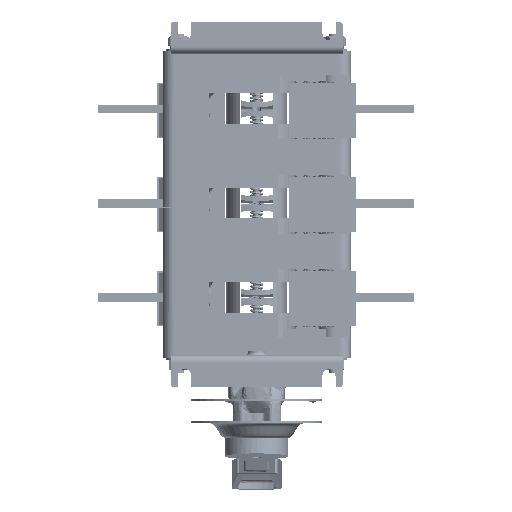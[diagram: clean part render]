
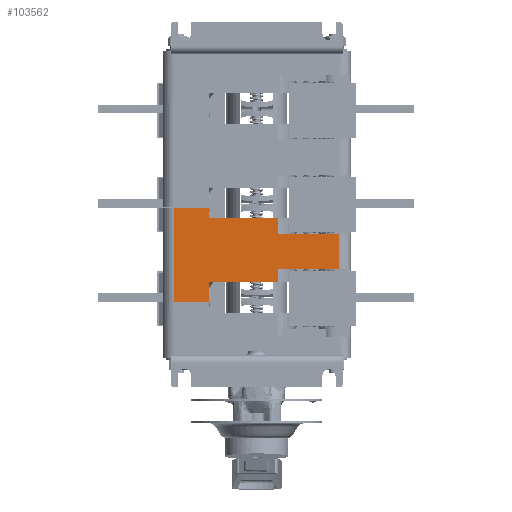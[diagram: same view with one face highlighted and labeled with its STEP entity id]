
A CAD part, front view. The second image highlights one B-rep face of the part: STEP entity #103562.
In plain terms, the highlighted planar face has unit normal (0, -1, 0).
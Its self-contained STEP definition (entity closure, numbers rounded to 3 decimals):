
#2036 = DIRECTION ( 'NONE',  ( -1., 0., 0. ) ) ;
#2700 = VERTEX_POINT ( 'NONE', #9446 ) ;
#2861 = CARTESIAN_POINT ( 'NONE',  ( 57., -27., 14.5 ) ) ;
#3808 = CARTESIAN_POINT ( 'NONE',  ( -57., -27., 32.5 ) ) ;
#7294 = VERTEX_POINT ( 'NONE', #89578 ) ;
#7757 = DIRECTION ( 'NONE',  ( 0., 0., -1. ) ) ;
#7928 = VECTOR ( 'NONE', #106510, 1000. ) ;
#8209 = EDGE_CURVE ( 'NONE', #99063, #37990, #20240, .T. ) ;
#8443 = DIRECTION ( 'NONE',  ( -1., 0., 0. ) ) ;
#9446 = CARTESIAN_POINT ( 'NONE',  ( 57., -27., -10. ) ) ;
#10263 = ORIENTED_EDGE ( 'NONE', *, *, #48912, .T. ) ;
#10593 = LINE ( 'NONE', #67646, #94738 ) ;
#11622 = ORIENTED_EDGE ( 'NONE', *, *, #42886, .F. ) ;
#11790 = LINE ( 'NONE', #94224, #27671 ) ;
#13086 = CARTESIAN_POINT ( 'NONE',  ( -57., -27., 25. ) ) ;
#14388 = EDGE_CURVE ( 'NONE', #93547, #51093, #69107, .T. ) ;
#16885 = VERTEX_POINT ( 'NONE', #35813 ) ;
#17057 = EDGE_CURVE ( 'NONE', #88546, #2700, #57174, .T. ) ;
#18035 = FACE_OUTER_BOUND ( 'NONE', #81884, .T. ) ;
#18108 = ORIENTED_EDGE ( 'NONE', *, *, #90341, .F. ) ;
#20240 = LINE ( 'NONE', #78222, #75536 ) ;
#20956 = EDGE_CURVE ( 'NONE', #32603, #72906, #10593, .T. ) ;
#23085 = LINE ( 'NONE', #63423, #100612 ) ;
#24018 = DIRECTION ( 'NONE',  ( 1., 0., 0. ) ) ;
#25399 = CARTESIAN_POINT ( 'NONE',  ( 15., -27., 14.5 ) ) ;
#26850 = LINE ( 'NONE', #34620, #91208 ) ;
#27108 = LINE ( 'NONE', #25399, #33682 ) ;
#27671 = VECTOR ( 'NONE', #24018, 1000. ) ;
#29635 = ORIENTED_EDGE ( 'NONE', *, *, #67912, .F. ) ;
#30004 = DIRECTION ( 'NONE',  ( 0., 1., 0. ) ) ;
#30266 = LINE ( 'NONE', #80801, #7928 ) ;
#32603 = VERTEX_POINT ( 'NONE', #106537 ) ;
#32645 = ORIENTED_EDGE ( 'NONE', *, *, #96063, .F. ) ;
#33682 = VECTOR ( 'NONE', #108037, 1000. ) ;
#34620 = CARTESIAN_POINT ( 'NONE',  ( -57., -27., -32.5 ) ) ;
#35813 = CARTESIAN_POINT ( 'NONE',  ( 15., -27., -10. ) ) ;
#37990 = VERTEX_POINT ( 'NONE', #106682 ) ;
#38276 = ORIENTED_EDGE ( 'NONE', *, *, #8209, .F. ) ;
#38368 = ORIENTED_EDGE ( 'NONE', *, *, #69264, .F. ) ;
#41203 = CARTESIAN_POINT ( 'NONE',  ( -33., -27., -32.5 ) ) ;
#42317 = DIRECTION ( 'NONE',  ( -1., 0., 0. ) ) ;
#42886 = EDGE_CURVE ( 'NONE', #7294, #99063, #95862, .T. ) ;
#48311 = VERTEX_POINT ( 'NONE', #41203 ) ;
#48912 = EDGE_CURVE ( 'NONE', #69072, #37990, #30266, .T. ) ;
#51093 = VERTEX_POINT ( 'NONE', #95189 ) ;
#51715 = CARTESIAN_POINT ( 'NONE',  ( 15., -27., -19. ) ) ;
#52477 = DIRECTION ( 'NONE',  ( 0., 0., -1. ) ) ;
#53423 = CARTESIAN_POINT ( 'NONE',  ( 57., -27., 25. ) ) ;
#57174 = LINE ( 'NONE', #53423, #96541 ) ;
#57251 = VECTOR ( 'NONE', #52477, 1000. ) ;
#57780 = CARTESIAN_POINT ( 'NONE',  ( -33., -27., 32.5 ) ) ;
#62722 = DIRECTION ( 'NONE',  ( 0., 0., 1. ) ) ;
#63423 = CARTESIAN_POINT ( 'NONE',  ( -33., -27., -32.5 ) ) ;
#64828 = ORIENTED_EDGE ( 'NONE', *, *, #17057, .F. ) ;
#65942 = CARTESIAN_POINT ( 'NONE',  ( -33., -27., 25. ) ) ;
#67646 = CARTESIAN_POINT ( 'NONE',  ( -33., -27., -19. ) ) ;
#67912 = EDGE_CURVE ( 'NONE', #69072, #88546, #27108, .T. ) ;
#69072 = VERTEX_POINT ( 'NONE', #81853 ) ;
#69107 = LINE ( 'NONE', #79967, #57251 ) ;
#69264 = EDGE_CURVE ( 'NONE', #2700, #16885, #96505, .T. ) ;
#69311 = DIRECTION ( 'NONE',  ( 0., 0., 1. ) ) ;
#72906 = VERTEX_POINT ( 'NONE', #103095 ) ;
#74004 = AXIS2_PLACEMENT_3D ( 'NONE', #13086, #30004, #97228 ) ;
#75536 = VECTOR ( 'NONE', #103528, 1000. ) ;
#75625 = VECTOR ( 'NONE', #2036, 1000. ) ;
#77822 = CARTESIAN_POINT ( 'NONE',  ( 15., -27., -10. ) ) ;
#78222 = CARTESIAN_POINT ( 'NONE',  ( -57., -27., 25. ) ) ;
#78751 = ORIENTED_EDGE ( 'NONE', *, *, #14388, .T. ) ;
#79758 = VECTOR ( 'NONE', #69311, 1000. ) ;
#79967 = CARTESIAN_POINT ( 'NONE',  ( -57., -27., 25. ) ) ;
#80357 = PLANE ( 'NONE',  #74004 ) ;
#80801 = CARTESIAN_POINT ( 'NONE',  ( 15., -27., 14.5 ) ) ;
#81853 = CARTESIAN_POINT ( 'NONE',  ( 15., -27., 14.5 ) ) ;
#81884 = EDGE_LOOP ( 'NONE', ( #29635, #10263, #38276, #11622, #18108, #78751, #32645, #96170, #88472, #87652, #38368, #64828 ) ) ;
#86657 = VECTOR ( 'NONE', #7757, 1000. ) ;
#87652 = ORIENTED_EDGE ( 'NONE', *, *, #102403, .T. ) ;
#88472 = ORIENTED_EDGE ( 'NONE', *, *, #20956, .F. ) ;
#88546 = VERTEX_POINT ( 'NONE', #2861 ) ;
#89578 = CARTESIAN_POINT ( 'NONE',  ( -33., -27., 32.5 ) ) ;
#90341 = EDGE_CURVE ( 'NONE', #93547, #7294, #11790, .T. ) ;
#91208 = VECTOR ( 'NONE', #42317, 1000. ) ;
#93547 = VERTEX_POINT ( 'NONE', #3808 ) ;
#94224 = CARTESIAN_POINT ( 'NONE',  ( -57., -27., 32.5 ) ) ;
#94738 = VECTOR ( 'NONE', #8443, 1000. ) ;
#95189 = CARTESIAN_POINT ( 'NONE',  ( -57., -27., -32.5 ) ) ;
#95251 = DIRECTION ( 'NONE',  ( 0., 0., -1. ) ) ;
#95862 = LINE ( 'NONE', #57780, #86657 ) ;
#96063 = EDGE_CURVE ( 'NONE', #48311, #51093, #26850, .T. ) ;
#96170 = ORIENTED_EDGE ( 'NONE', *, *, #98467, .T. ) ;
#96505 = LINE ( 'NONE', #77822, #75625 ) ;
#96541 = VECTOR ( 'NONE', #95251, 1000. ) ;
#97228 = DIRECTION ( 'NONE',  ( 0., 0., 1. ) ) ;
#98467 = EDGE_CURVE ( 'NONE', #48311, #72906, #23085, .T. ) ;
#99063 = VERTEX_POINT ( 'NONE', #65942 ) ;
#100612 = VECTOR ( 'NONE', #62722, 1000. ) ;
#102403 = EDGE_CURVE ( 'NONE', #32603, #16885, #105975, .T. ) ;
#103095 = CARTESIAN_POINT ( 'NONE',  ( -33., -27., -19. ) ) ;
#103528 = DIRECTION ( 'NONE',  ( 1., 0., 0. ) ) ;
#103562 = ADVANCED_FACE ( 'NONE', ( #18035 ), #80357, .F. ) ;
#105975 = LINE ( 'NONE', #51715, #79758 ) ;
#106510 = DIRECTION ( 'NONE',  ( 0., 0., 1. ) ) ;
#106537 = CARTESIAN_POINT ( 'NONE',  ( 15., -27., -19. ) ) ;
#106682 = CARTESIAN_POINT ( 'NONE',  ( 15., -27., 25. ) ) ;
#108037 = DIRECTION ( 'NONE',  ( 1., 0., 0. ) ) ;
